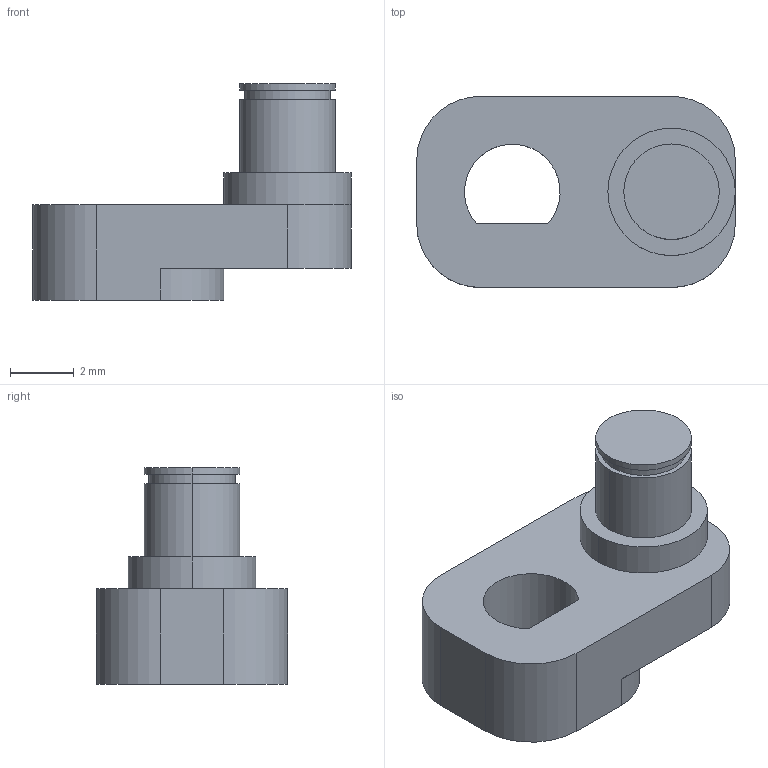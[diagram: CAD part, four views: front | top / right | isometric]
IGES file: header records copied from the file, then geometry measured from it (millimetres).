
Global section: file name: No Iges File Name specified; native system: Autodesk Inventor 2009; preprocessor: AutoDesk Inventor Iges Exporter R2009; author: hide; date: 20090826.064943; units: millimetre
Bounding box: 10 x 6 x 6.8 mm (x, y, z)
Volume: 158.8 mm3; surface area: 247 mm2
Topology: 1 solids, 1 shells, 28 faces, 67 edges, 44 vertices
Faces by surface type: cylinder 14, plane 13, revolution 1
